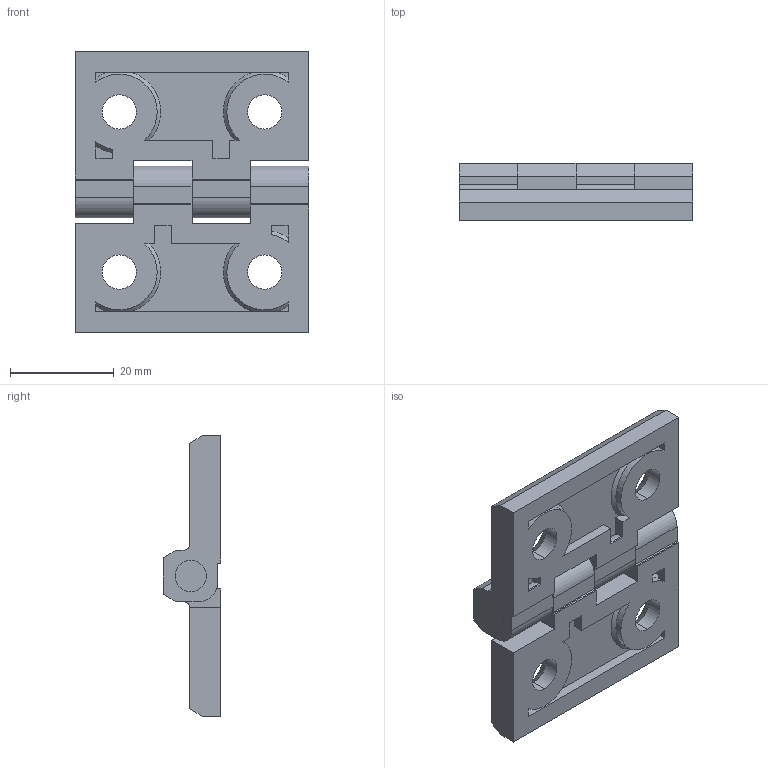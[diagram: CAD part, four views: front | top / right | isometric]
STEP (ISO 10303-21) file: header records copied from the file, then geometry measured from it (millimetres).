
FILE_DESCRIPTION (( 'STEP AP203' ), '1' );
FILE_NAME ('B01-3030B.STEP', '2024-10-28T08:46:29', ( '' ), ( '' ), 'SwSTEP 2.0', 'SolidWorks 2021', '' );
FILE_SCHEMA (( 'CONFIG_CONTROL_DESIGN' ));
Length unit declared in the file: millimetre
Products named in the file (3): B01-30; B01-軸心; B01-3030B
Assembly tree (3 placements, depth 2):
  B01-3030B
    B01-30  x2
    B01-軸心
Bounding box: 45 x 11 x 54 mm (x, y, z)
Volume: 13678.6 mm3; surface area: 9445 mm2
Topology: 3 solids, 3 shells, 136 faces, 364 edges, 238 vertices
Faces by surface type: plane 82, cylinder 40, cone 14
Entity records: 2531 total; most frequent: CARTESIAN_POINT 412, DIRECTION 380, ORIENTED_EDGE 370, EDGE_CURVE 185, AXIS2_PLACEMENT_3D 127, LINE 126, VECTOR 126, VERTEX_POINT 121
